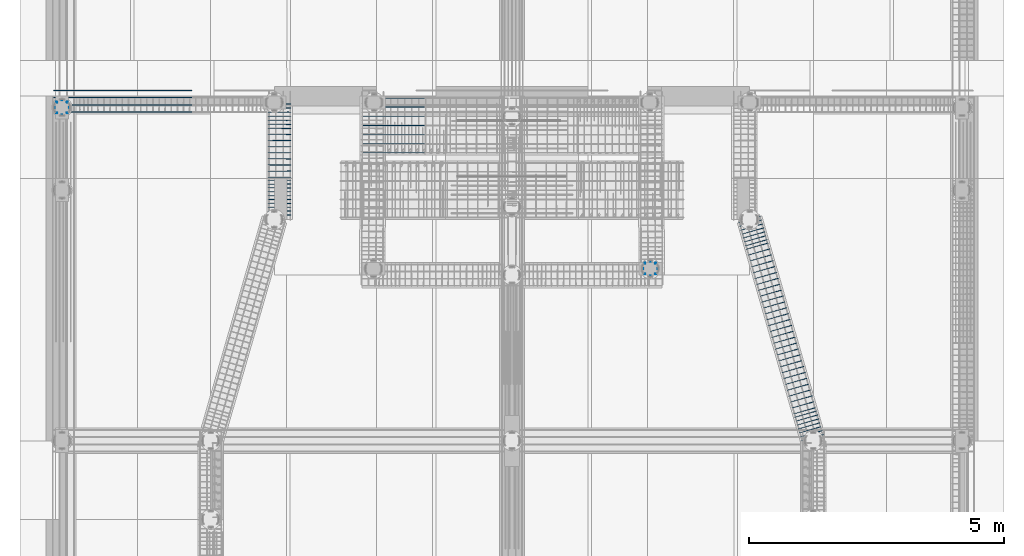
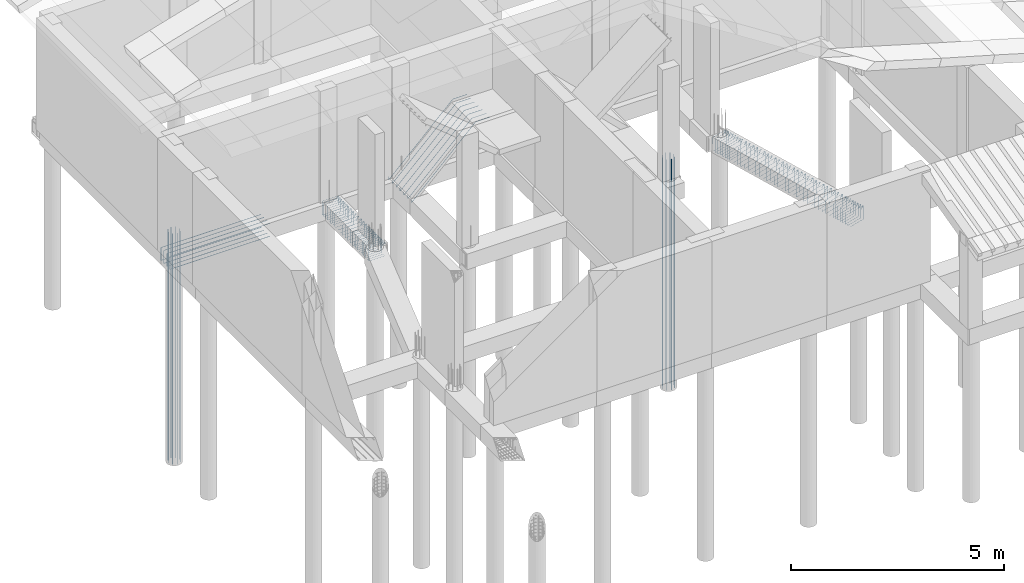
# One storey, part 7 of 13: 6 reinforcing bars.
"""IFC4 building model written with IfcOpenShell, lengths in metres."""

from ifc_helpers import new_model, entity, si_unit, origin_with_axes, place, context, project, spatial, source, transform, mapped, element, save


model = new_model("IFC4")

# Units and contexts
model_context = context("Model", 3, precision=1e-05, world=origin_with_axes())
ifc_project = project(units=[si_unit("LENGTHUNIT", "METRE"), si_unit("AREAUNIT", "SQUARE_METRE"), si_unit("VOLUMEUNIT", "CUBIC_METRE"), si_unit("MASSUNIT", "GRAM", prefix="KILO"), si_unit("TIMEUNIT", "SECOND"), si_unit("PLANEANGLEUNIT", "RADIAN"), si_unit("SOLIDANGLEUNIT", "STERADIAN"), si_unit("THERMODYNAMICTEMPERATUREUNIT", "DEGREE_CELSIUS")], contexts=[model_context])

# Site, building, storey
placement_1 = place(None, origin_with_axes())
site = spatial("IfcSite", under=ifc_project, at=placement_1, Name="Italia", CompositionType="ELEMENT")
building = spatial("IfcBuilding", under=site, at=placement_1, Name="Villa", CompositionType="ELEMENT")
storey = spatial("IfcBuildingStorey", under=building, at=placement_1, Name="Storey 0", CompositionType="ELEMENT", Elevation=0.0)

# Reinforcing bars
shared_shape_1 = source(origin_with_axes(), model_context, "Body", "AdvancedSweptSolid", [
    entity("IfcSweptDiskSolid", entity("IfcIndexedPolyCurve", entity("IfcCartesianPointList3D", [[11.9097, 8.81035, -6.0], [11.9097, 8.81035, 0.6]]), [entity("IfcLineIndex", [1, 2])], False), 0.008),
])
placement_2 = place(placement_1, origin_with_axes())
reinforcing_bar_1_placement = place(placement_2, origin_with_axes())
element("IfcReinforcingBar", 1, at=reinforcing_bar_1_placement, inside=storey, BarLength=6.6, CrossSectionArea=0.00020106, NominalDiameter=0.016, context=model_context, shape_type="MappedRepresentation", body=[
    mapped(shared_shape_1, transform((-0.252651, 0.104651, 0.0), x_axis=(1.0, 0.0, 0.0), y_axis=(0.0, 1.0, 0.0), z_axis=(0.0, 0.0, 1.0), scale=1.0)),
    mapped(shared_shape_1, transform((-0.209303, 0.209303, 0.0), x_axis=(1.0, 0.0, 0.0), y_axis=(0.0, 1.0, 0.0), z_axis=(0.0, 0.0, 1.0), scale=1.0)),
    mapped(shared_shape_1, transform((-0.104651, -0.0433483, 0.0), x_axis=(1.0, 0.0, 0.0), y_axis=(0.0, 1.0, 0.0), z_axis=(0.0, 0.0, 1.0), scale=1.0)),
    mapped(shared_shape_1, transform((-0.209303, 0.0, 0.0), x_axis=(1.0, 0.0, 0.0), y_axis=(0.0, 1.0, 0.0), z_axis=(0.0, 0.0, 1.0), scale=1.0)),
    mapped(shared_shape_1, transform((0.0433483, 0.104651, 0.0), x_axis=(1.0, 0.0, 0.0), y_axis=(0.0, 1.0, 0.0), z_axis=(0.0, 0.0, 1.0), scale=1.0)),
    mapped(shared_shape_1, transform((0.0, 0.0, 0.0), x_axis=(1.0, 0.0, 0.0), y_axis=(0.0, 1.0, 0.0), z_axis=(0.0, 0.0, 1.0), scale=1.0)),
    mapped(shared_shape_1, transform((-0.104651, 0.252651, 0.0), x_axis=(1.0, 0.0, 0.0), y_axis=(0.0, 1.0, 0.0), z_axis=(0.0, 0.0, 1.0), scale=1.0)),
    mapped(shared_shape_1, transform((0.0, 0.209303, 0.0), x_axis=(1.0, 0.0, 0.0), y_axis=(0.0, 1.0, 0.0), z_axis=(0.0, 0.0, 1.0), scale=1.0)),
])
shared_shape_2 = source(origin_with_axes(), model_context, "Body", "AdvancedSweptSolid", [
    entity("IfcSweptDiskSolid", entity("IfcIndexedPolyCurve", entity("IfcCartesianPointList3D", [[0.369652, 11.9703, -6.0], [0.369652, 11.9703, 0.6]]), [entity("IfcLineIndex", [1, 2])], False), 0.008),
])
reinforcing_bar_2_placement = place(placement_2, origin_with_axes())
element("IfcReinforcingBar", 2, at=reinforcing_bar_2_placement, inside=storey, BarLength=6.6, CrossSectionArea=0.00020106, NominalDiameter=0.016, context=model_context, shape_type="MappedRepresentation", body=[
    mapped(shared_shape_2, transform((-0.252652, 0.10465, 0.0), x_axis=(1.0, 0.0, 0.0), y_axis=(0.0, 1.0, 0.0), z_axis=(0.0, 0.0, 1.0), scale=1.0)),
    mapped(shared_shape_2, transform((-0.209304, 0.209302, 0.0), x_axis=(1.0, 0.0, 0.0), y_axis=(0.0, 1.0, 0.0), z_axis=(0.0, 0.0, 1.0), scale=1.0)),
    mapped(shared_shape_2, transform((-0.104652, -0.0433493, 0.0), x_axis=(1.0, 0.0, 0.0), y_axis=(0.0, 1.0, 0.0), z_axis=(0.0, 0.0, 1.0), scale=1.0)),
    mapped(shared_shape_2, transform((-0.209304, 0.0, 0.0), x_axis=(1.0, 0.0, 0.0), y_axis=(0.0, 1.0, 0.0), z_axis=(0.0, 0.0, 1.0), scale=1.0)),
    mapped(shared_shape_2, transform((0.0433482, 0.10465, 0.0), x_axis=(1.0, 0.0, 0.0), y_axis=(0.0, 1.0, 0.0), z_axis=(0.0, 0.0, 1.0), scale=1.0)),
    mapped(shared_shape_2, transform((0.0, 0.0, 0.0), x_axis=(1.0, 0.0, 0.0), y_axis=(0.0, 1.0, 0.0), z_axis=(0.0, 0.0, 1.0), scale=1.0)),
    mapped(shared_shape_2, transform((-0.104652, 0.25265, 0.0), x_axis=(1.0, 0.0, 0.0), y_axis=(0.0, 1.0, 0.0), z_axis=(0.0, 0.0, 1.0), scale=1.0)),
    mapped(shared_shape_2, transform((0.0, 0.209302, 0.0), x_axis=(1.0, 0.0, 0.0), y_axis=(0.0, 1.0, 0.0), z_axis=(0.0, 0.0, 1.0), scale=1.0)),
])
shared_shape_3 = source(origin_with_axes(), model_context, "Body", "AdvancedSweptSolid", [
    entity("IfcSweptDiskSolid", entity("IfcIndexedPolyCurve", entity("IfcCartesianPointList3D", [[0.1, 11.991, -0.159], [0.1, 11.991, -0.399], [0.100761, 11.991, -0.402827], [0.102929, 11.991, -0.406071], [0.106173, 11.991, -0.408239], [0.11, 11.991, -0.409], [0.265, 11.991, -0.409], [2.285, 11.991, -0.409], [2.81082, 11.991, -0.409]]), [entity("IfcLineIndex", [1, 2]), entity("IfcLineIndex", [2, 3]), entity("IfcLineIndex", [3, 4]), entity("IfcLineIndex", [4, 5]), entity("IfcLineIndex", [5, 6]), entity("IfcLineIndex", [6, 7]), entity("IfcLineIndex", [7, 8]), entity("IfcLineIndex", [8, 9])], False), 0.008),
])
reinforcing_bar_3_placement = place(placement_2, origin_with_axes())
element("IfcReinforcingBar", 3, at=reinforcing_bar_3_placement, inside=storey, BarLength=2.95642, CrossSectionArea=0.00020106, NominalDiameter=0.016, context=model_context, shape_type="MappedRepresentation", body=[
    mapped(shared_shape_3, transform((0.0, 24.4, -0.45), x_axis=(1.0, 0.0, 0.0), y_axis=(0.0, -1.0, 0.0), z_axis=(0.0, 0.0, -1.0), scale=1.0)),
    mapped(shared_shape_3, transform((0.0, 23.982, -0.45), x_axis=(1.0, 0.0, 0.0), y_axis=(0.0, -1.0, 0.0), z_axis=(0.0, 0.0, -1.0), scale=1.0)),
    mapped(shared_shape_3, transform((0.0, 24.2633, -0.45), x_axis=(1.0, 0.0, 0.0), y_axis=(0.0, -1.0, 0.0), z_axis=(0.0, 0.0, -1.0), scale=1.0)),
    mapped(shared_shape_3, transform((0.0, 24.1187, -0.45), x_axis=(1.0, 0.0, 0.0), y_axis=(0.0, -1.0, 0.0), z_axis=(0.0, 0.0, -1.0), scale=1.0)),
    mapped(shared_shape_3, transform((0.0, 0.417999, 0.0), x_axis=(1.0, 0.0, 0.0), y_axis=(0.0, 1.0, 0.0), z_axis=(0.0, 0.0, 1.0), scale=1.0)),
    mapped(shared_shape_3, transform((0.0, 0.0, 0.0), x_axis=(1.0, 0.0, 0.0), y_axis=(0.0, 1.0, 0.0), z_axis=(0.0, 0.0, 1.0), scale=1.0)),
    mapped(shared_shape_3, transform((0.0, 0.281333, 0.0), x_axis=(1.0, 0.0, 0.0), y_axis=(0.0, 1.0, 0.0), z_axis=(0.0, 0.0, 1.0), scale=1.0)),
    mapped(shared_shape_3, transform((0.0, 0.136666, 0.0), x_axis=(1.0, 0.0, 0.0), y_axis=(0.0, 1.0, 0.0), z_axis=(0.0, 0.0, 1.0), scale=1.0)),
])
shared_shape_4 = source(origin_with_axes(), model_context, "Body", "AdvancedSweptSolid", [
    entity("IfcSweptDiskSolid", entity("IfcIndexedPolyCurve", entity("IfcCartesianPointList3D", [[4.68029, 9.973, -0.120711], [4.74807, 9.97254, -0.0529289], [4.751, 9.97251, -0.0458579], [4.751, 9.97248, -0.039], [4.75024, 9.97246, -0.0351732], [4.74807, 9.97244, -0.0319289], [4.74483, 9.97242, -0.0297612], [4.741, 9.9724, -0.029], [4.319, 9.97039, -0.029], [4.31517, 9.97037, -0.0297612], [4.31193, 9.97035, -0.0319289], [4.30976, 9.97034, -0.0351732], [4.309, 9.97032, -0.039], [4.309, 9.96854, -0.411], [4.30976, 9.96853, -0.414827], [4.31193, 9.96851, -0.418071], [4.31517, 9.96849, -0.420239], [4.319, 9.96847, -0.421], [4.741, 9.96646, -0.421], [4.74483, 9.96644, -0.420239], [4.74807, 9.96642, -0.418071], [4.75024, 9.9664, -0.414827], [4.751, 9.96639, -0.411], [4.751, 9.96461, -0.039], [4.75024, 9.9646, -0.0351732], [4.74807, 9.96458, -0.0319289], [4.74483, 9.96456, -0.0297612], [4.741, 9.96454, -0.029], [4.73414, 9.96451, -0.029], [4.72707, 9.96447, -0.0319289], [4.65929, 9.96402, -0.0997114]]), [entity("IfcLineIndex", [1, 2]), entity("IfcLineIndex", [2, 3]), entity("IfcLineIndex", [3, 4]), entity("IfcLineIndex", [4, 5]), entity("IfcLineIndex", [5, 6]), entity("IfcLineIndex", [6, 7]), entity("IfcLineIndex", [7, 8]), entity("IfcLineIndex", [8, 9]), entity("IfcLineIndex", [9, 10]), entity("IfcLineIndex", [10, 11]), entity("IfcLineIndex", [11, 12]), entity("IfcLineIndex", [12, 13]), entity("IfcLineIndex", [13, 14]), entity("IfcLineIndex", [14, 15]), entity("IfcLineIndex", [15, 16]), entity("IfcLineIndex", [16, 17]), entity("IfcLineIndex", [17, 18]), entity("IfcLineIndex", [18, 19]), entity("IfcLineIndex", [19, 20]), entity("IfcLineIndex", [20, 21]), entity("IfcLineIndex", [21, 22]), entity("IfcLineIndex", [22, 23]), entity("IfcLineIndex", [23, 24]), entity("IfcLineIndex", [24, 25]), entity("IfcLineIndex", [25, 26]), entity("IfcLineIndex", [26, 27]), entity("IfcLineIndex", [27, 28]), entity("IfcLineIndex", [28, 29]), entity("IfcLineIndex", [29, 30]), entity("IfcLineIndex", [30, 31])], False), 0.004),
])
reinforcing_bar_4_placement = place(placement_2, origin_with_axes())
element("IfcReinforcingBar", 4, at=reinforcing_bar_4_placement, inside=storey, BarLength=1.8868, CrossSectionArea=5.0265e-05, NominalDiameter=0.008, context=model_context, shape_type="MappedRepresentation", body=[
    mapped(shared_shape_4, transform((0.0, 0.0, 0.0), x_axis=(1.0, 0.0, 0.0), y_axis=(0.0, 1.0, 0.0), z_axis=(0.0, 0.0, 1.0), scale=1.0)),
    mapped(shared_shape_4, transform((0.0, 0.606221, 0.0), x_axis=(1.0, 0.0, 0.0), y_axis=(0.0, 1.0, 0.0), z_axis=(0.0, 0.0, 1.0), scale=1.0)),
    mapped(shared_shape_4, transform((0.0, 0.530444, 0.0), x_axis=(1.0, 0.0, 0.0), y_axis=(0.0, 1.0, 0.0), z_axis=(0.0, 0.0, 1.0), scale=1.0)),
    mapped(shared_shape_4, transform((0.0, 0.681999, 0.0), x_axis=(1.0, 0.0, 0.0), y_axis=(0.0, 1.0, 0.0), z_axis=(0.0, 0.0, 1.0), scale=1.0)),
    mapped(shared_shape_4, transform((0.0, 0.86, 0.0), x_axis=(1.0, 0.0, 0.0), y_axis=(0.0, 1.0, 0.0), z_axis=(0.0, 0.0, 1.0), scale=1.0)),
    mapped(shared_shape_4, transform((0.0, 0.74, 0.0), x_axis=(1.0, 0.0, 0.0), y_axis=(0.0, 1.0, 0.0), z_axis=(0.0, 0.0, 1.0), scale=1.0)),
    mapped(shared_shape_4, transform((0.0, 0.454666, 0.0), x_axis=(1.0, 0.0, 0.0), y_axis=(0.0, 1.0, 0.0), z_axis=(0.0, 0.0, 1.0), scale=1.0)),
    mapped(shared_shape_4, transform((0.0, 0.151555, 0.0), x_axis=(1.0, 0.0, 0.0), y_axis=(0.0, 1.0, 0.0), z_axis=(0.0, 0.0, 1.0), scale=1.0)),
    mapped(shared_shape_4, transform((0.0, 0.075778, 0.0), x_axis=(1.0, 0.0, 0.0), y_axis=(0.0, 1.0, 0.0), z_axis=(0.0, 0.0, 1.0), scale=1.0)),
    mapped(shared_shape_4, transform((0.0, 0.227333, 0.0), x_axis=(1.0, 0.0, 0.0), y_axis=(0.0, 1.0, 0.0), z_axis=(0.0, 0.0, 1.0), scale=1.0)),
    mapped(shared_shape_4, transform((0.0, 0.378888, 0.0), x_axis=(1.0, 0.0, 0.0), y_axis=(0.0, 1.0, 0.0), z_axis=(0.0, 0.0, 1.0), scale=1.0)),
    mapped(shared_shape_4, transform((0.0, 0.303111, 0.0), x_axis=(1.0, 0.0, 0.0), y_axis=(0.0, 1.0, 0.0), z_axis=(0.0, 0.0, 1.0), scale=1.0)),
    mapped(shared_shape_4, transform((0.0, 0.98, 0.0), x_axis=(1.0, 0.0, 0.0), y_axis=(0.0, 1.0, 0.0), z_axis=(0.0, 0.0, 1.0), scale=1.0)),
    mapped(shared_shape_4, transform((0.0, 1.857, 0.0), x_axis=(1.0, 0.0, 0.0), y_axis=(0.0, 1.0, 0.0), z_axis=(0.0, 0.0, 1.0), scale=1.0)),
    mapped(shared_shape_4, transform((0.0, 1.777, 0.0), x_axis=(1.0, 0.0, 0.0), y_axis=(0.0, 1.0, 0.0), z_axis=(0.0, 0.0, 1.0), scale=1.0)),
    mapped(shared_shape_4, transform((0.0, 1.937, 0.0), x_axis=(1.0, 0.0, 0.0), y_axis=(0.0, 1.0, 0.0), z_axis=(0.0, 0.0, 1.0), scale=1.0)),
    mapped(shared_shape_4, transform((0.0, 2.097, 0.0), x_axis=(1.0, 0.0, 0.0), y_axis=(0.0, 1.0, 0.0), z_axis=(0.0, 0.0, 1.0), scale=1.0)),
    mapped(shared_shape_4, transform((0.0, 2.017, 0.0), x_axis=(1.0, 0.0, 0.0), y_axis=(0.0, 1.0, 0.0), z_axis=(0.0, 0.0, 1.0), scale=1.0)),
    mapped(shared_shape_4, transform((0.0, 1.697, 0.0), x_axis=(1.0, 0.0, 0.0), y_axis=(0.0, 1.0, 0.0), z_axis=(0.0, 0.0, 1.0), scale=1.0)),
    mapped(shared_shape_4, transform((0.0, 1.22, 0.0), x_axis=(1.0, 0.0, 0.0), y_axis=(0.0, 1.0, 0.0), z_axis=(0.0, 0.0, 1.0), scale=1.0)),
    mapped(shared_shape_4, transform((0.0, 1.1, 0.0), x_axis=(1.0, 0.0, 0.0), y_axis=(0.0, 1.0, 0.0), z_axis=(0.0, 0.0, 1.0), scale=1.0)),
    mapped(shared_shape_4, transform((0.0, 1.34, 0.0), x_axis=(1.0, 0.0, 0.0), y_axis=(0.0, 1.0, 0.0), z_axis=(0.0, 0.0, 1.0), scale=1.0)),
    mapped(shared_shape_4, transform((0.0, 1.58, 0.0), x_axis=(1.0, 0.0, 0.0), y_axis=(0.0, 1.0, 0.0), z_axis=(0.0, 0.0, 1.0), scale=1.0)),
    mapped(shared_shape_4, transform((0.0, 1.46, 0.0), x_axis=(1.0, 0.0, 0.0), y_axis=(0.0, 1.0, 0.0), z_axis=(0.0, 0.0, 1.0), scale=1.0)),
    mapped(shared_shape_4, transform((0.0, 2.177, 0.0), x_axis=(1.0, 0.0, 0.0), y_axis=(0.0, 1.0, 0.0), z_axis=(0.0, 0.0, 1.0), scale=1.0)),
])
shared_shape_5 = source(origin_with_axes(), model_context, "Body", "AdvancedSweptSolid", [
    entity("IfcSweptDiskSolid", entity("IfcIndexedPolyCurve", entity("IfcCartesianPointList3D", [[15.1257, 5.64655, -0.120711], [15.191, 5.66487, -0.0529289], [15.1938, 5.66565, -0.0458579], [15.1938, 5.66562, -0.039], [15.1931, 5.66539, -0.0351732], [15.191, 5.66477, -0.0319289], [15.1879, 5.66385, -0.0297612], [15.1842, 5.66278, -0.029], [14.7793, 5.54405, -0.029], [14.7756, 5.54297, -0.0297612], [14.7725, 5.54206, -0.0319289], [14.7704, 5.54144, -0.0351732], [14.7697, 5.54121, -0.039], [14.7702, 5.53951, -0.411], [14.7709, 5.5397, -0.414827], [14.773, 5.54028, -0.418071], [14.7761, 5.54116, -0.420239], [14.7798, 5.5422, -0.421], [15.1859, 5.65707, -0.421], [15.1895, 5.65811, -0.420239], [15.1927, 5.65899, -0.418071], [15.1948, 5.65957, -0.414827], [15.1955, 5.65976, -0.411], [15.196, 5.65806, -0.039], [15.1953, 5.65783, -0.0351732], [15.1932, 5.65722, -0.0319289], [15.1901, 5.6563, -0.0297612], [15.1864, 5.65522, -0.029], [15.1798, 5.65329, -0.029], [15.173, 5.6513, -0.0319289], [15.108, 5.6321, -0.0997114]]), [entity("IfcLineIndex", [1, 2]), entity("IfcLineIndex", [2, 3]), entity("IfcLineIndex", [3, 4]), entity("IfcLineIndex", [4, 5]), entity("IfcLineIndex", [5, 6]), entity("IfcLineIndex", [6, 7]), entity("IfcLineIndex", [7, 8]), entity("IfcLineIndex", [8, 9]), entity("IfcLineIndex", [9, 10]), entity("IfcLineIndex", [10, 11]), entity("IfcLineIndex", [11, 12]), entity("IfcLineIndex", [12, 13]), entity("IfcLineIndex", [13, 14]), entity("IfcLineIndex", [14, 15]), entity("IfcLineIndex", [15, 16]), entity("IfcLineIndex", [16, 17]), entity("IfcLineIndex", [17, 18]), entity("IfcLineIndex", [18, 19]), entity("IfcLineIndex", [19, 20]), entity("IfcLineIndex", [20, 21]), entity("IfcLineIndex", [21, 22]), entity("IfcLineIndex", [22, 23]), entity("IfcLineIndex", [23, 24]), entity("IfcLineIndex", [24, 25]), entity("IfcLineIndex", [25, 26]), entity("IfcLineIndex", [26, 27]), entity("IfcLineIndex", [27, 28]), entity("IfcLineIndex", [28, 29]), entity("IfcLineIndex", [29, 30]), entity("IfcLineIndex", [30, 31])], False), 0.004),
])
reinforcing_bar_5_placement = place(placement_2, origin_with_axes())
element("IfcReinforcingBar", 5, at=reinforcing_bar_5_placement, inside=storey, BarLength=1.8868, CrossSectionArea=5.0265e-05, NominalDiameter=0.008, context=model_context, shape_type="MappedRepresentation", body=[
    mapped(shared_shape_5, transform((-1.23497, 4.28701, 0.0003452), x_axis=(1.0, -0.000180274, 4.1306e-05), y_axis=(0.000180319, 1.0, -0.000171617), z_axis=(-4.12751e-05, 0.000171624, 1.0), scale=1.0)),
    mapped(shared_shape_5, transform((-0.650536, 2.25838, -0.000149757), x_axis=(1.0, -6.1661e-05, 3.09646e-05), y_axis=(6.14971e-05, 1.0, -5.63264e-05), z_axis=(-3.09611e-05, 5.63283e-05, 1.0), scale=1.0)),
    mapped(shared_shape_5, transform((-0.685674, 2.37888, 0.00064227), x_axis=(1.0, -0.000401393, 0.000101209), y_axis=(0.000401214, 1.0, -0.000384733), z_axis=(-0.000101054, 0.000384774, 1.0), scale=1.0)),
    mapped(shared_shape_5, transform((-0.881965, 3.06274, -0.000376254), x_axis=(1.0, 0.000124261, -1.85072e-05), y_axis=(-0.000124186, 1.0, 0.000116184), z_axis=(1.85217e-05, -0.000116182, 1.0), scale=1.0)),
    mapped(shared_shape_5, transform((-0.915985, 3.18022, -3.10242e-05), x_axis=(1.0, -1.79857e-05, 1.43945e-05), y_axis=(1.77622e-05, 1.0, -3.29465e-05), z_axis=(-1.43939e-05, 3.29467e-05, 1.0), scale=1.0)),
    mapped(shared_shape_5, transform((-0.784019, 2.72135, 0.00023362), x_axis=(1.0, -0.000173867, 4.70579e-05), y_axis=(0.000173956, 1.0, -0.000167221), z_axis=(-4.70288e-05, 0.000167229, 1.0), scale=1.0)),
    mapped(shared_shape_5, transform((-0.815486, 2.83197, -0.000132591), x_axis=(1.0, 0.000133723, -3.42429e-05), y_axis=(-0.000133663, 1.0, 0.000115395), z_axis=(3.42583e-05, -0.00011539, 1.0), scale=1.0)),
    mapped(shared_shape_5, transform((-0.851869, 2.9558, 0.000627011), x_axis=(1.0, -0.000425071, 0.000105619), y_axis=(0.00042513, 1.0, -0.000393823), z_axis=(-0.000105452, 0.000393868, 1.0), scale=1.0)),
    mapped(shared_shape_5, transform((-0.717595, 2.49072, 0.00023362), x_axis=(1.0, -0.000173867, 4.70579e-05), y_axis=(0.000173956, 1.0, -0.000167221), z_axis=(-4.70288e-05, 0.000167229, 1.0), scale=1.0)),
    mapped(shared_shape_5, transform((-0.750844, 2.60613, 0.0003452), x_axis=(1.0, -0.000180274, 4.1306e-05), y_axis=(0.000180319, 1.0, -0.000171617), z_axis=(-4.12751e-05, 0.000171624, 1.0), scale=1.0)),
    mapped(shared_shape_5, transform((-0.95008, 3.29791, 0.00023362), x_axis=(1.0, -0.000173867, 4.70579e-05), y_axis=(0.000173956, 1.0, -0.000167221), z_axis=(-4.70288e-05, 0.000167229, 1.0), scale=1.0)),
    mapped(shared_shape_5, transform((-0.983891, 3.41482, 0.000119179), x_axis=(1.0, -0.000279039, 8.88109e-05), y_axis=(0.000278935, 1.0, -0.000258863), z_axis=(-8.87387e-05, 0.000258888, 1.0), scale=1.0)),
    mapped(shared_shape_5, transform((-1.01602, 3.52722, 0.00016591), x_axis=(1.0, -8.74698e-05, 2.56002e-05), y_axis=(8.74549e-05, 1.0, -9.77516e-05), z_axis=(-2.55916e-05, 9.77539e-05, 1.0), scale=1.0)),
    mapped(shared_shape_5, transform((-1.16802, 4.05498, 0.00016591), x_axis=(1.0, -8.74698e-05, 2.56002e-05), y_axis=(8.74549e-05, 1.0, -9.77516e-05), z_axis=(-2.55916e-05, 9.77539e-05, 1.0), scale=1.0)),
    mapped(shared_shape_5, transform((-1.19016, 4.13185, 0.00016591), x_axis=(1.0, -8.74698e-05, 2.56002e-05), y_axis=(8.74549e-05, 1.0, -9.77516e-05), z_axis=(-2.55916e-05, 9.77539e-05, 1.0), scale=1.0)),
    mapped(shared_shape_5, transform((-1.10311, 3.82843, 0.000427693), x_axis=(1.0, -0.00035508, 9.4384e-05), y_axis=(0.000354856, 1.0, -0.000328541), z_axis=(-9.42673e-05, 0.000328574, 1.0), scale=1.0)),
    mapped(shared_shape_5, transform((-1.12374, 3.90123, 0.00016591), x_axis=(1.0, -8.74698e-05, 2.56002e-05), y_axis=(8.74549e-05, 1.0, -9.77516e-05), z_axis=(-2.55916e-05, 9.77539e-05, 1.0), scale=1.0)),
    mapped(shared_shape_5, transform((-1.14588, 3.9781, 0.00016591), x_axis=(1.0, -8.74698e-05, 2.56002e-05), y_axis=(8.74549e-05, 1.0, -9.77516e-05), z_axis=(-2.55916e-05, 9.77539e-05, 1.0), scale=1.0)),
    mapped(shared_shape_5, transform((-1.04964, 3.64364, 0.0), x_axis=(1.0, -0.000160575, 5.86212e-05), y_axis=(0.000160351, 1.0, -0.00015837), z_axis=(-5.85957e-05, 0.000158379, 1.0), scale=1.0)),
    mapped(shared_shape_5, transform((-1.08561, 3.76636, 0.000923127), x_axis=(1.0, -0.000646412, 0.000165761), y_axis=(0.00064607, 1.0, -0.000607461), z_axis=(-0.000165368, 0.000607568, 1.0), scale=1.0)),
    mapped(shared_shape_5, transform((-1.21074, 4.20455, -0.000208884), x_axis=(1.0, 0.000186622, -3.72827e-05), y_axis=(-0.00018695, 1.0, 0.000136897), z_axis=(3.73083e-05, -0.00013689, 1.0), scale=1.0)),
    mapped(shared_shape_5, transform((-0.616992, 2.14219, 2.95341e-05), x_axis=(1.0, 0.0, 0.0), y_axis=(0.0, 1.0, -1.02371e-05), z_axis=(0.0, 1.02371e-05, 1.0), scale=1.0)),
    mapped(shared_shape_5, transform((-0.0220728, 0.0766978, 0.0), x_axis=(1.0, 1.16378e-05, 0.0), y_axis=(-1.18911e-05, 1.0, 0.0), z_axis=(0.0, 0.0, 1.0), scale=1.0)),
    mapped(shared_shape_5, transform((-0.151992, 0.527731, -0.000236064), x_axis=(1.0, 0.0, 1.37687e-05), y_axis=(0.0, 1.0, 0.0), z_axis=(-1.37687e-05, 0.0, 1.0), scale=1.0)),
    mapped(shared_shape_5, transform((-0.186224, 0.645782, 0.000263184), x_axis=(1.0, -0.000177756, 4.8995e-05), y_axis=(0.000177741, 1.0, -0.00017789), z_axis=(-4.89634e-05, 0.000177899, 1.0), scale=1.0)),
    mapped(shared_shape_5, transform((-0.0878906, 0.305694, -0.000112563), x_axis=(1.0, 0.000118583, -2.99811e-05), y_axis=(-0.000118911, 1.0, 0.000100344), z_axis=(2.9993e-05, -0.000100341, 1.0), scale=1.0)),
    mapped(shared_shape_5, transform((-0.11079, 0.384602, 1.85668e-05), x_axis=(1.0, -1.49012e-05, 0.0), y_axis=(1.47074e-05, 1.0, -1.44988e-05), z_axis=(0.0, 1.44989e-05, 1.0), scale=1.0)),
    mapped(shared_shape_5, transform((-0.133494, 0.46299, 0.000178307), x_axis=(1.0, -0.000114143, 3.19183e-05), y_axis=(0.00011383, 1.0, -0.000117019), z_axis=(-3.19049e-05, 0.000117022, 1.0), scale=1.0)),
    mapped(shared_shape_5, transform((-0.044282, 0.153751, 0.0), x_axis=(1.0, 0.0, 0.0), y_axis=(0.0, 1.0, 0.0), z_axis=(0.0, 0.0, 1.0), scale=1.0)),
    mapped(shared_shape_5, transform((-0.06707, 0.232365, 0.000178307), x_axis=(1.0, -0.000114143, 3.19183e-05), y_axis=(0.00011383, 1.0, -0.000117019), z_axis=(-3.19049e-05, 0.000117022, 1.0), scale=1.0)),
    mapped(shared_shape_5, transform((-0.218428, 0.758385, 0.0), x_axis=(1.0, 0.0, 0.0), y_axis=(0.0, 1.0, 0.0), z_axis=(0.0, 0.0, 1.0), scale=1.0)),
    mapped(shared_shape_5, transform((-0.251923, 0.874457, -0.000140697), x_axis=(1.0, -4.99636e-05, 2.85804e-05), y_axis=(5.00083e-05, 1.0, -5.1558e-05), z_axis=(-2.85779e-05, 5.15594e-05, 1.0), scale=1.0)),
    mapped(shared_shape_5, transform((-0.284936, 0.989236, 1.85668e-05), x_axis=(1.0, -1.49012e-05, 0.0), y_axis=(1.47074e-05, 1.0, -1.44988e-05), z_axis=(0.0, 1.44989e-05, 1.0), scale=1.0)),
    mapped(shared_shape_5, transform((-0.483985, 1.68051, -0.000216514), x_axis=(1.0, 2.4423e-05, 0.0), y_axis=(-2.44677e-05, 1.0, 1.3113e-05), z_axis=(0.0, -1.31133e-05, 1.0), scale=1.0)),
    mapped(shared_shape_5, transform((-0.517421, 1.79642, 1.85668e-05), x_axis=(1.0, -1.49012e-05, 0.0), y_axis=(1.47074e-05, 1.0, -1.44988e-05), z_axis=(0.0, 1.44989e-05, 1.0), scale=1.0)),
    mapped(shared_shape_5, transform((-0.385744, 1.33832, 0.000297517), x_axis=(1.0, -0.000221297, 5.99325e-05), y_axis=(0.000221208, 1.0, -0.000213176), z_axis=(-5.98853e-05, 0.000213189, 1.0), scale=1.0)),
    mapped(shared_shape_5, transform((-0.417451, 1.44959, -3.53158e-05), x_axis=(1.0, 4.37498e-05, -1.09077e-05), y_axis=(-4.35859e-05, 1.0, 3.56287e-05), z_axis=(1.09092e-05, -3.56282e-05, 1.0), scale=1.0)),
    mapped(shared_shape_5, transform((-0.451629, 1.56749, 0.000168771), x_axis=(1.0, -0.000126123, 3.41833e-05), y_axis=(0.000126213, 1.0, -0.000121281), z_axis=(-3.4168e-05, 0.000121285, 1.0), scale=1.0)),
    mapped(shared_shape_5, transform((-0.317986, 1.10412, -0.000225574), x_axis=(1.0, 1.32769e-05, 1.16527e-05), y_axis=(-1.36197e-05, 1.0, 0.0), z_axis=(-1.16526e-05, 0.0, 1.0), scale=1.0)),
    mapped(shared_shape_5, transform((-0.351692, 1.22075, 0.000226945), x_axis=(1.0, -7.33286e-05, 1.32322e-05), y_axis=(7.33137e-05, 1.0, -7.5534e-05), z_axis=(-1.32267e-05, 7.5535e-05, 1.0), scale=1.0)),
    mapped(shared_shape_5, transform((-0.549788, 1.90947, -0.000132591), x_axis=(1.0, 0.000133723, -3.42429e-05), y_axis=(-0.000133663, 1.0, 0.000115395), z_axis=(3.42583e-05, -0.00011539, 1.0), scale=1.0)),
    mapped(shared_shape_5, transform((-0.584769, 2.02953, 0.000263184), x_axis=(1.0, -0.000177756, 4.8995e-05), y_axis=(0.000177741, 1.0, -0.00017789), z_axis=(-4.89634e-05, 0.000177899, 1.0), scale=1.0)),
    mapped(shared_shape_5, transform((0.0, 0.0, 0.0), x_axis=(1.0, 0.0, 0.0), y_axis=(0.0, 1.0, 0.0), z_axis=(0.0, 0.0, 1.0), scale=1.0)),
])
shared_shape_6 = source(origin_with_axes(), model_context, "Body", "AdvancedSweptSolid", [
    entity("IfcSweptDiskSolid", entity("IfcIndexedPolyCurve", entity("IfcCartesianPointList3D", [[6.17, 11.19, -0.04], [6.17, 11.19, -0.120494], [6.17167, 11.19, -0.12603], [6.17613, 11.19, -0.129715], [6.18188, 11.19, -0.130315], [6.18701, 11.19, -0.12763], [6.385, 11.19, 0.0667205], [7.83497, 11.19, 1.49], [7.90336, 11.19, 1.55714], [7.91037, 11.19, 1.56], [8.29506, 11.19, 1.56]]), [entity("IfcLineIndex", [1, 2]), entity("IfcLineIndex", [2, 3]), entity("IfcLineIndex", [3, 4]), entity("IfcLineIndex", [4, 5]), entity("IfcLineIndex", [5, 6]), entity("IfcLineIndex", [6, 7]), entity("IfcLineIndex", [7, 8]), entity("IfcLineIndex", [8, 9]), entity("IfcLineIndex", [9, 10]), entity("IfcLineIndex", [10, 11])], False), 0.007),
])
reinforcing_bar_6_placement = place(placement_2, origin_with_axes())
element("IfcReinforcingBar", 6, at=reinforcing_bar_6_placement, inside=storey, BarLength=2.90094, CrossSectionArea=0.00015394, NominalDiameter=0.014, context=model_context, shape_type="MappedRepresentation", body=[
    mapped(shared_shape_6, transform((0.0, 0.0, 0.0), x_axis=(1.0, 0.0, 0.0), y_axis=(0.0, 1.0, 0.0), z_axis=(0.0, 0.0, 1.0), scale=1.0)),
    mapped(shared_shape_6, transform((0.0, 0.173667, 0.0), x_axis=(1.0, 0.0, 0.0), y_axis=(0.0, 1.0, 0.0), z_axis=(0.0, 0.0, 1.0), scale=1.0)),
    mapped(shared_shape_6, transform((0.0, 1.07, 0.0), x_axis=(1.0, 0.0, 0.0), y_axis=(0.0, 1.0, 0.0), z_axis=(0.0, 0.0, 1.0), scale=1.0)),
    mapped(shared_shape_6, transform((0.0, 0.354333, 0.0), x_axis=(1.0, 0.0, 0.0), y_axis=(0.0, 1.0, 0.0), z_axis=(0.0, 0.0, 1.0), scale=1.0)),
    mapped(shared_shape_6, transform((0.0, 0.715667, 0.0), x_axis=(1.0, 0.0, 0.0), y_axis=(0.0, 1.0, 0.0), z_axis=(0.0, 0.0, 1.0), scale=1.0)),
    mapped(shared_shape_6, transform((0.0, 0.535, 0.0), x_axis=(1.0, 0.0, 0.0), y_axis=(0.0, 1.0, 0.0), z_axis=(0.0, 0.0, 1.0), scale=1.0)),
    mapped(shared_shape_6, transform((0.0, 0.896334, 0.0), x_axis=(1.0, 0.0, 0.0), y_axis=(0.0, 1.0, 0.0), z_axis=(0.0, 0.0, 1.0), scale=1.0)),
])

save(model, "model.ifc")
